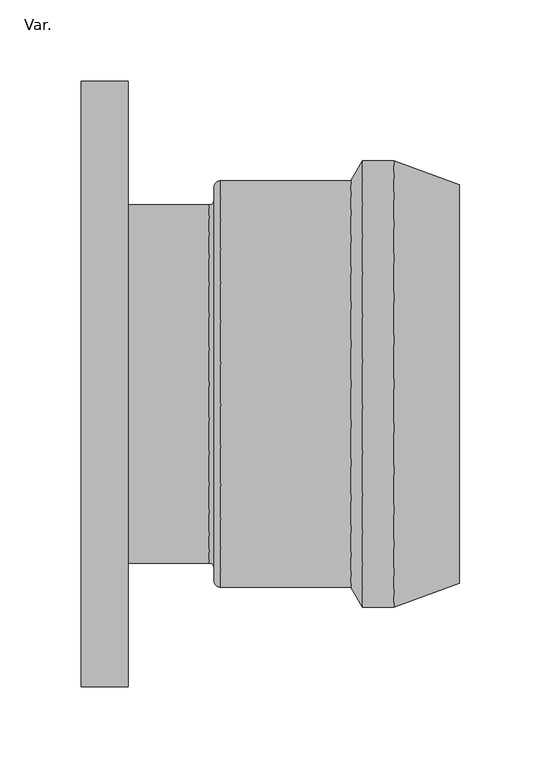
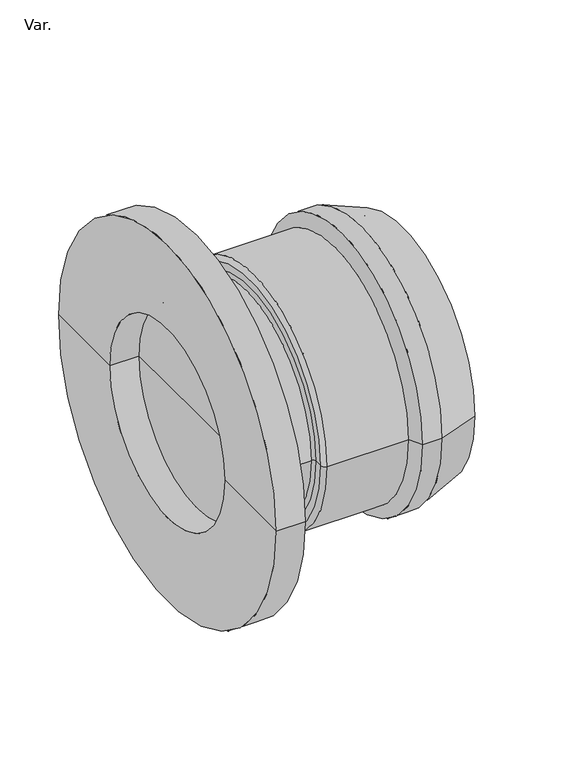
"""IFC4 building model written with IfcOpenShell, lengths in millimetres: pipe fitting geometry, PavcoWavin_UnionesDeTuberia_AwwaC110TransicionCampanaBrida : Var.."""

from ifc_helpers import new_model, si_unit, point, frame, origin, place, context, project, spatial, polyline, circle_curve, ellipse_curve, trimmed, source, transform, mapped, element, save
from ifc_brep_helpers import plane_surface, cylinder_surface, revolved_surface, advanced_brep


def var_837b00b0(model_context):
    return source(origin(), model_context, "Body", "AdvancedBrep", [
        advanced_brep(
        [(45.5, -115.095, 0.0), (45.5, 115.095, 0.0), (45.5, 0.0, 0.0), (186.9, -115.095, 0.0), (186.9, 115.095, 0.0), (186.9, -122.2956025, 0.0), (186.9, 122.2956025, 0.0), (146.5, -137.0, 0.0), (146.5, 137.0, 0.0), (127.3, -137.0, 0.0), (127.3, 137.0, 0.0), (120.25344, -124.795, 0.0), (120.25344, 124.795, 0.0), (40.1, -124.795, 0.0), (40.1, 124.795, 0.0), (36.1, -120.795, 0.0), (36.1, 120.795, 0.0), (36.1, -113.0, 0.0), (36.1, 113.0, 0.0), (33.1, -110.0, 0.0), (33.1, 110.0, 0.0), (-16.8, -110.0, 0.0), (-16.8, 110.0, 0.0), (-16.8, -185.8, 0.0), (-16.8, 185.8, 0.0), (-45.5, -185.8, 0.0), (-45.5, 185.8, 0.0), (-45.5, -98.54, 0.0), (-45.5, 98.54, 0.0), (-16.8, -98.54, 0.0), (-16.8, 98.54, 0.0), (-16.8, 0.0, 0.0)],
        [
            (0, 1, circle_curve(frame((45.5, 0.0, 0.0), z_axis=(1.0, 0.0, 0.0), x_axis=(0.0, 1.0, 0.0)), 115.095)),
            (1, 2),
            (2, 0),
            (1, 0, circle_curve(frame((45.5, 0.0, 0.0), z_axis=(1.0, 0.0, 0.0), x_axis=(0.0, 1.0, 0.0)), 115.095)),
            (3, 4, circle_curve(frame((186.9, 0.0, 0.0), z_axis=(1.0, 0.0, 0.0), x_axis=(0.0, 1.0, 0.0)), 115.095)),
            (4, 1),
            (0, 3),
            (4, 3, circle_curve(frame((186.9, 0.0, 0.0), z_axis=(1.0, 0.0, 0.0), x_axis=(0.0, 1.0, 0.0)), 115.095)),
            (5, 6, circle_curve(frame((186.9, 0.0, 0.0), z_axis=(1.0, 0.0, 0.0), x_axis=(0.0, 1.0, 0.0)), 122.2956025)),
            (6, 4),
            (3, 5),
            (6, 5, circle_curve(frame((186.9, 0.0, 0.0), z_axis=(1.0, 0.0, 0.0), x_axis=(0.0, 1.0, 0.0)), 122.2956025)),
            (7, 8, circle_curve(frame((146.5, 0.0, 0.0), z_axis=(1.0, 0.0, 0.0), x_axis=(0.0, 1.0, 0.0)), 137.0)),
            (8, 6),
            (5, 7),
            (8, 7, circle_curve(frame((146.5, 0.0, 0.0), z_axis=(1.0, 0.0, 0.0), x_axis=(0.0, 1.0, 0.0)), 137.0)),
            (9, 10, circle_curve(frame((127.3, 0.0, 0.0), z_axis=(1.0, 0.0, 0.0), x_axis=(0.0, 1.0, 0.0)), 137.0)),
            (10, 8),
            (7, 9),
            (10, 9, circle_curve(frame((127.3, 0.0, 0.0), z_axis=(1.0, 0.0, 0.0), x_axis=(0.0, 1.0, 0.0)), 137.0)),
            (11, 12, circle_curve(frame((120.25344, 0.0, 0.0), z_axis=(1.0, 0.0, 0.0), x_axis=(0.0, 1.0, 0.0)), 124.795)),
            (12, 10),
            (9, 11),
            (12, 11, circle_curve(frame((120.25344, 0.0, 0.0), z_axis=(1.0, 0.0, 0.0), x_axis=(0.0, 1.0, 0.0)), 124.795)),
            (13, 14, circle_curve(frame((40.1, 0.0, 0.0), z_axis=(1.0, 0.0, 0.0), x_axis=(0.0, 1.0, 0.0)), 124.795)),
            (14, 12),
            (11, 13),
            (14, 13, circle_curve(frame((40.1, 0.0, 0.0), z_axis=(1.0, 0.0, 0.0), x_axis=(0.0, 1.0, 0.0)), 124.795)),
            (15, 16, circle_curve(frame((36.1, 0.0, 0.0), z_axis=(1.0, 0.0, 0.0), x_axis=(0.0, 1.0, 0.0)), 120.795)),
            (16, 14, circle_curve(frame((40.1, 120.795, 0.0), z_axis=(0.0, 0.0, -1.0), x_axis=(1.0, 0.0, 0.0)), 4.0)),
            (13, 15, circle_curve(frame((40.1, -120.795, 0.0), z_axis=(0.0, 0.0, -1.0), x_axis=(1.0, 0.0, 0.0)), 4.0)),
            (16, 15, circle_curve(frame((36.1, 0.0, 0.0), z_axis=(1.0, 0.0, 0.0), x_axis=(0.0, 1.0, 0.0)), 120.795)),
            (17, 18, circle_curve(frame((36.1, 0.0, 0.0), z_axis=(1.0, 0.0, 0.0), x_axis=(0.0, 1.0, 0.0)), 113.0)),
            (18, 16),
            (15, 17),
            (18, 17, circle_curve(frame((36.1, 0.0, 0.0), z_axis=(1.0, 0.0, 0.0), x_axis=(0.0, 1.0, 0.0)), 113.0)),
            (19, 20, circle_curve(frame((33.1, 0.0, 0.0), z_axis=(1.0, 0.0, 0.0), x_axis=(0.0, 1.0, 0.0)), 110.0)),
            (20, 18, circle_curve(frame((33.1, 113.0, 0.0), z_axis=(0.0, 0.0, 1.0), x_axis=(1.0, 0.0, 0.0)), 3.0)),
            (17, 19, circle_curve(frame((33.1, -113.0, 0.0), z_axis=(0.0, 0.0, 1.0), x_axis=(1.0, 0.0, 0.0)), 3.0)),
            (20, 19, circle_curve(frame((33.1, 0.0, 0.0), z_axis=(1.0, 0.0, 0.0), x_axis=(0.0, 1.0, 0.0)), 110.0)),
            (21, 22, circle_curve(frame((-16.8, 0.0, 0.0), z_axis=(1.0, 0.0, 0.0), x_axis=(0.0, 1.0, 0.0)), 110.0)),
            (22, 20),
            (19, 21),
            (22, 21, circle_curve(frame((-16.8, 0.0, 0.0), z_axis=(1.0, 0.0, 0.0), x_axis=(0.0, 1.0, 0.0)), 110.0)),
            (23, 24, circle_curve(frame((-16.8, 0.0, 0.0), z_axis=(1.0, 0.0, 0.0), x_axis=(0.0, 1.0, 0.0)), 185.8)),
            (24, 22),
            (21, 23),
            (24, 23, circle_curve(frame((-16.8, 0.0, 0.0), z_axis=(1.0, 0.0, 0.0), x_axis=(0.0, 1.0, 0.0)), 185.8)),
            (25, 26, circle_curve(frame((-45.5, 0.0, 0.0), z_axis=(1.0, 0.0, 0.0), x_axis=(0.0, 1.0, 0.0)), 185.8)),
            (26, 24),
            (23, 25),
            (26, 25, circle_curve(frame((-45.5, 0.0, 0.0), z_axis=(1.0, 0.0, 0.0), x_axis=(0.0, 1.0, 0.0)), 185.8)),
            (27, 28, circle_curve(frame((-45.5, 0.0, 0.0), z_axis=(1.0, 0.0, 0.0), x_axis=(0.0, 1.0, 0.0)), 98.54)),
            (28, 26),
            (25, 27),
            (28, 27, circle_curve(frame((-45.5, 0.0, 0.0), z_axis=(1.0, 0.0, 0.0), x_axis=(0.0, 1.0, 0.0)), 98.54)),
            (29, 30, circle_curve(frame((-16.8, 0.0, 0.0), z_axis=(1.0, 0.0, 0.0), x_axis=(0.0, 1.0, 0.0)), 98.54)),
            (30, 28),
            (27, 29),
            (30, 29, circle_curve(frame((-16.8, 0.0, 0.0), z_axis=(1.0, 0.0, 0.0), x_axis=(0.0, 1.0, 0.0)), 98.54)),
            (31, 30),
            (29, 31),
        ],
        [
            plane_surface(frame((45.5, 0.0, 0.0), z_axis=(1.0, 0.0, 0.0), x_axis=(0.0, 1.0, 0.0))),
            revolved_surface(polyline([(45.5, 115.095, 0.0), (186.9000000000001, 115.095, 0.0)]), (2000.0, 0.0, 0.0), (-1.0, 0.0, 0.0)),
            plane_surface(frame((186.9, 0.0, 0.0), z_axis=(1.0, 0.0, 0.0), x_axis=(0.0, 1.0, 0.0))),
            revolved_surface(polyline([(186.9, 122.2956025, 0.0), (146.5, 137.0, 0.0)]), (2000.0, 0.0, 0.0), (-1.0, 0.0, 0.0)),
            cylinder_surface(frame((2000.0, 0.0, 0.0), z_axis=(-1.0, 0.0, 0.0), x_axis=(0.0, 1.0, 0.0)), 137.0),
            revolved_surface(polyline([(127.3, 137.0, 0.0), (120.25344, 124.795, 0.0)]), (2000.0, 0.0, 0.0), (-1.0, 0.0, 0.0)),
            cylinder_surface(frame((2000.0, 0.0, 0.0), z_axis=(-1.0, 0.0, 0.0), x_axis=(0.0, 1.0, 0.0)), 124.795),
            revolved_surface(trimmed(ellipse_curve(frame((40.1, 120.795, 0.0), z_axis=(0.0, 0.0, 1.0), x_axis=(1.0, 0.0, 0.0)), 4.0, 4.0), [point((40.1, 124.795, 0.0))], [point((36.1, 120.795, 0.0))], True, "CARTESIAN"), (2000.0, 0.0, 0.0), (-1.0, 0.0, 0.0)),
            plane_surface(frame((36.1, 0.0, 0.0), z_axis=(-1.0, 0.0, 0.0), x_axis=(0.0, 1.0, 0.0))),
            revolved_surface(trimmed(ellipse_curve(frame((33.1, 113.0, 0.0), z_axis=(0.0, 0.0, -1.0), x_axis=(1.0, 0.0, 0.0)), 3.0, 3.0), [point((36.1, 113.0, 0.0))], [point((33.1, 110.0, 0.0))], True, "CARTESIAN"), (2000.0, 0.0, 0.0), (-1.0, 0.0, 0.0)),
            cylinder_surface(frame((2000.0, 0.0, 0.0), z_axis=(-1.0, 0.0, 0.0), x_axis=(0.0, 1.0, 0.0)), 110.0),
            plane_surface(frame((-16.8, 0.0, 0.0), z_axis=(1.0, 0.0, 0.0), x_axis=(0.0, 1.0, 0.0))),
            cylinder_surface(frame((2000.0, 0.0, 0.0), z_axis=(-1.0, 0.0, 0.0), x_axis=(0.0, 1.0, 0.0)), 185.8),
            plane_surface(frame((-45.5, 0.0, 0.0), z_axis=(-1.0, 0.0, 0.0), x_axis=(0.0, 1.0, 0.0))),
            revolved_surface(polyline([(-45.5, 98.54, 0.0), (-16.799999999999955, 98.54, 0.0)]), (2000.0, 0.0, 0.0), (-1.0, 0.0, 0.0)),
            plane_surface(frame((-16.8, 0.0, 0.0), z_axis=(-1.0, 0.0, 0.0), x_axis=(0.0, 1.0, 0.0))),
        ],
        [
            (0, [[1, 2, 3]]),
            (0, [[4, -3, -2]]),
            (1, [[5, 6, -1, 7]]),
            (1, [[8, -7, -4, -6]]),
            (2, [[9, 10, -5, 11]]),
            (2, [[12, -11, -8, -10]]),
            (3, [[13, 14, -9, 15]]),
            (3, [[16, -15, -12, -14]]),
            (4, [[17, 18, -13, 19]]),
            (4, [[20, -19, -16, -18]]),
            (5, [[21, 22, -17, 23]]),
            (5, [[24, -23, -20, -22]]),
            (6, [[25, 26, -21, 27]]),
            (6, [[28, -27, -24, -26]]),
            (7, [[29, 30, -25, 31]]),
            (7, [[32, -31, -28, -30]]),
            (8, [[33, 34, -29, 35]]),
            (8, [[36, -35, -32, -34]]),
            (9, [[37, 38, -33, 39]]),
            (9, [[40, -39, -36, -38]]),
            (10, [[41, 42, -37, 43]]),
            (10, [[44, -43, -40, -42]]),
            (11, [[45, 46, -41, 47]]),
            (11, [[48, -47, -44, -46]]),
            (12, [[49, 50, -45, 51]]),
            (12, [[52, -51, -48, -50]]),
            (13, [[53, 54, -49, 55]]),
            (13, [[56, -55, -52, -54]]),
            (14, [[57, 58, -53, 59]]),
            (14, [[60, -59, -56, -58]]),
            (15, [[61, -57, 62]]),
            (15, [[-62, -60, -61]]),
        ],
    ),
    ])


if __name__ == "__main__":
    model = new_model("IFC4")
    model_context = context("Model", 3, world=origin())
    ifc_project = project(units=[si_unit("LENGTHUNIT", "METRE", prefix="MILLI")], contexts=[model_context])
    site = spatial("IfcSite", under=ifc_project)
    building = spatial("IfcBuilding", under=site)
    placement = place(None, origin())
    var_shape = var_837b00b0(model_context)
    element("IfcPipeFitting", 1, ObjectType="PavcoWavin_UnionesDeTuberia_AwwaC110TransicionCampanaBrida : Var.", at=placement, inside=building, context=model_context, shape_type="MappedRepresentation", body=[
        mapped(var_shape, transform((0.0, 0.0, 0.0), x_axis=(1.0, 0.0, 0.0), y_axis=(0.0, 1.0, 0.0), z_axis=(0.0, 0.0, 1.0))),
    ])
    save(model, "model.ifc")
